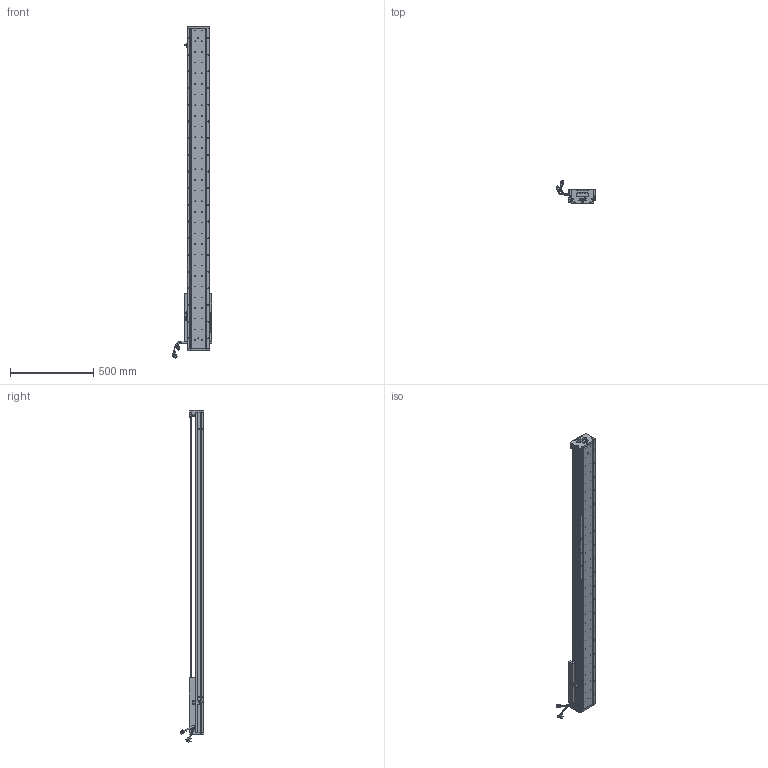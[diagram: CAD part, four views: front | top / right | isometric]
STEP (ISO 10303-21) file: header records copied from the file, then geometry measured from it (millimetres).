
FILE_DESCRIPTION (( 'STEP AP203' ), '1' );
FILE_NAME ('Z4-RY140D-1-L500-B-K.SLDASM_1550.step', '2021-05-17T08:16:52', ( '盈信电脑' ), ( '东莞市道滘镇水果街19号' ), 'SwSTEP 2.0', 'SolidWorks 2016', '' );
FILE_SCHEMA (( 'CONFIG_CONTROL_DESIGN' ));
Length unit declared in the file: millimetre
Products named in the file (36): 詩湍狟揤裔; Z4-RY140圉猾敕臏賑輸(21遴); SCREW-M1.6-2; SCREW-M1.7; HOLDER0; SEAL; 140蚥薯蝶輸; LABEL-Part-1; SEAL-Part-1; 080黍杅芛假蚾釱21遴; 140雄赽晤鎢ん堤盄; SCALE-Part-1; 詩湍奻揤裔; HARNESS-Part-1; SCREW-M1.7-1; 140-Z-臏賑輸盄裔(21遴); SCALE-Part-2; SCREW-M1.6; HARNESS; LABEL; PSLH080_PSLF2; Z-140詩湍傷裔啣; Z-RY140感应器672光电感应片; PBU_SHEET; COVER; 榋妏寠巭燃_暯_M2_2; SCREW-M1.6-1; Z4-RY140-L500詩湍100mm遵_1550; SCREW-M1.6-3; SCALE; Z4-RY140D-1-L500-B-K.SLDASM_1550; 覜茼ん672; Z4-RY140-L500直线电机模组底座_1550; SHIELDPLATE; HARNESS-Part-2; COVER-Part-1
Assembly tree (41 placements, depth 4):
  Z4-RY140D-1-L500-B-K.SLDASM_1550
    Z4-RY140-L500直线电机模组底座_1550
    Z-RY140感应器672光电感应片
    Z4-RY140圉猾敕臏賑輸(21遴)
    覜茼ん672  x3
    Z4-RY140-L500詩湍100mm遵_1550
    PSLH080_PSLF2
      SCALE
        SCALE-Part-1
        SCALE-Part-2
      HARNESS
        HARNESS-Part-1
        HARNESS-Part-2
      LABEL
        LABEL-Part-1
      COVER
        COVER-Part-1
      SEAL
        SEAL-Part-1
      榋妏寠巭燃_暯_M2_2
      SHIELDPLATE
      SCREW-M1.7
      SCREW-M1.7-1
      PBU_SHEET
      SCREW-M1.6
      SCREW-M1.6-1
      SCREW-M1.6-2
      SCREW-M1.6-3
      HOLDER0
    080黍杅芛假蚾釱21遴
    140-Z-臏賑輸盄裔(21遴)
    Z-140詩湍傷裔啣  x2
    詩湍狟揤裔  x2
    詩湍奻揤裔  x2
    140蚥薯蝶輸  x2
    140雄赽晤鎢ん堤盄
Bounding box: 239.84 x 143.88 x 1990.87 mm (x, y, z)
Volume: 6833609 mm3; surface area: 1754144.5 mm2
Topology: 36 solids, 36 shells, 3632 faces, 9770 edges, 6187 vertices
Faces by surface type: cylinder 1880, plane 1272, cone 358, torus 69, bspline 53
Entity records: 112138 total; most frequent: CARTESIAN_POINT 30509, ORIENTED_EDGE 16548, DIRECTION 15694, EDGE_CURVE 8274, AXIS2_PLACEMENT_3D 5820, VERTEX_POINT 5355, VECTOR 4054, LINE 4054
